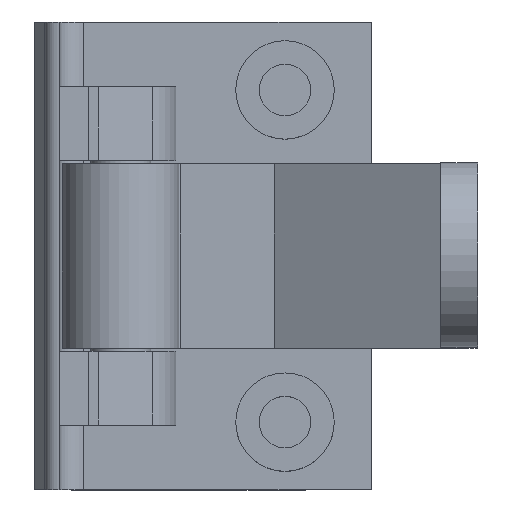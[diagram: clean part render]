
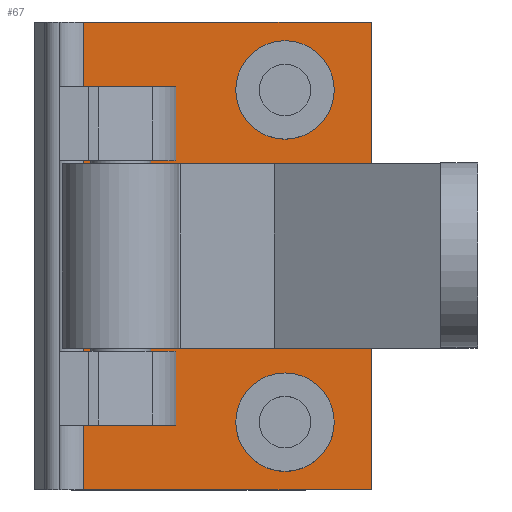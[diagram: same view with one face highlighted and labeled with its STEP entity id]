
A CAD part, top view. The second image highlights one B-rep face of the part: STEP entity #67.
In plain terms, the highlighted planar face has unit normal (0, 0, 1).
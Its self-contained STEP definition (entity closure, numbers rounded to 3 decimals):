
#26=FACE_BOUND('',#618,.T.);
#27=FACE_BOUND('',#619,.T.);
#67=ADVANCED_FACE('',(#339,#26,#27),#4818,.T.);
#339=FACE_OUTER_BOUND('',#617,.T.);
#617=EDGE_LOOP('',(#1036,#1037,#1038,#1039,#1040,#1041,#1042,#1043,#1044,
#1045,#1046,#1047));
#618=EDGE_LOOP('',(#1048,#1049));
#619=EDGE_LOOP('',(#1050,#1051));
#1036=ORIENTED_EDGE('',*,*,#2295,.T.);
#1037=ORIENTED_EDGE('',*,*,#2296,.F.);
#1038=ORIENTED_EDGE('',*,*,#2385,.F.);
#1039=ORIENTED_EDGE('',*,*,#2339,.F.);
#1040=ORIENTED_EDGE('',*,*,#2336,.F.);
#1041=ORIENTED_EDGE('',*,*,#2338,.T.);
#1042=ORIENTED_EDGE('',*,*,#2374,.F.);
#1043=ORIENTED_EDGE('',*,*,#2376,.T.);
#1044=ORIENTED_EDGE('',*,*,#2351,.T.);
#1045=ORIENTED_EDGE('',*,*,#2377,.F.);
#1046=ORIENTED_EDGE('',*,*,#2387,.F.);
#1047=ORIENTED_EDGE('',*,*,#2294,.T.);
#1048=ORIENTED_EDGE('',*,*,#2401,.F.);
#1049=ORIENTED_EDGE('',*,*,#2378,.F.);
#1050=ORIENTED_EDGE('',*,*,#2395,.F.);
#1051=ORIENTED_EDGE('',*,*,#2342,.F.);
#2294=EDGE_CURVE('',#4187,#4190,#3175,.T.);
#2295=EDGE_CURVE('',#4190,#4191,#3176,.T.);
#2296=EDGE_CURVE('',#4188,#4191,#3177,.T.);
#2336=EDGE_CURVE('',#4218,#4219,#3211,.T.);
#2338=EDGE_CURVE('',#4218,#4220,#3213,.T.);
#2339=EDGE_CURVE('',#4219,#4221,#3214,.T.);
#2342=EDGE_CURVE('',#4222,#4254,#3270,.T.);
#2351=EDGE_CURVE('',#4226,#4229,#3013,.T.);
#2374=EDGE_CURVE('',#4244,#4220,#3016,.T.);
#2376=EDGE_CURVE('',#4244,#4226,#3230,.T.);
#2377=EDGE_CURVE('',#4245,#4229,#3231,.T.);
#2378=EDGE_CURVE('',#4248,#4258,#3282,.T.);
#2385=EDGE_CURVE('',#4221,#4188,#3019,.T.);
#2387=EDGE_CURVE('',#4187,#4245,#3020,.T.);
#2395=EDGE_CURVE('',#4254,#4222,#3290,.T.);
#2401=EDGE_CURVE('',#4258,#4248,#3294,.T.);
#3013=(
BOUNDED_CURVE()
B_SPLINE_CURVE(1,(#7172,#7173),.UNSPECIFIED.,.F.,.F.)
B_SPLINE_CURVE_WITH_KNOTS((2,2),(0.,38.),.UNSPECIFIED.)
CURVE()
GEOMETRIC_REPRESENTATION_ITEM()
RATIONAL_B_SPLINE_CURVE((1.,1.))
REPRESENTATION_ITEM('')
);
#3016=(
BOUNDED_CURVE()
B_SPLINE_CURVE(1,(#7223,#7224),.UNSPECIFIED.,.F.,.F.)
B_SPLINE_CURVE_WITH_KNOTS((2,2),(0.,5.245),.UNSPECIFIED.)
CURVE()
GEOMETRIC_REPRESENTATION_ITEM()
RATIONAL_B_SPLINE_CURVE((1.,1.))
REPRESENTATION_ITEM('')
);
#3019=(
BOUNDED_CURVE()
B_SPLINE_CURVE(1,(#7250,#7251),.UNSPECIFIED.,.F.,.F.)
B_SPLINE_CURVE_WITH_KNOTS((2,2),(11.245,26.755),.UNSPECIFIED.)
CURVE()
GEOMETRIC_REPRESENTATION_ITEM()
RATIONAL_B_SPLINE_CURVE((1.,1.))
REPRESENTATION_ITEM('')
);
#3020=(
BOUNDED_CURVE()
B_SPLINE_CURVE(1,(#7254,#7255),.UNSPECIFIED.,.F.,.F.)
B_SPLINE_CURVE_WITH_KNOTS((2,2),(32.755,38.),.UNSPECIFIED.)
CURVE()
GEOMETRIC_REPRESENTATION_ITEM()
RATIONAL_B_SPLINE_CURVE((1.,1.))
REPRESENTATION_ITEM('')
);
#3175=B_SPLINE_CURVE_WITH_KNOTS('',1,(#7046,#7047),.UNSPECIFIED.,.F.,.F.,
(2,2),(-59.452,-51.952),.UNSPECIFIED.);
#3176=B_SPLINE_CURVE_WITH_KNOTS('',1,(#7048,#7049),.UNSPECIFIED.,.F.,.F.,
(2,2),(0.,6.),.UNSPECIFIED.);
#3177=B_SPLINE_CURVE_WITH_KNOTS('',1,(#7050,#7051),.UNSPECIFIED.,.F.,.F.,
(2,2),(-59.452,-51.952),.UNSPECIFIED.);
#3211=B_SPLINE_CURVE_WITH_KNOTS('',1,(#7134,#7135),.UNSPECIFIED.,.F.,.F.,
(2,2),(0.,6.),.UNSPECIFIED.);
#3213=B_SPLINE_CURVE_WITH_KNOTS('',1,(#7138,#7139),.UNSPECIFIED.,.F.,.F.,
(2,2),(-21.859,-14.359),.UNSPECIFIED.);
#3214=B_SPLINE_CURVE_WITH_KNOTS('',1,(#7140,#7141),.UNSPECIFIED.,.F.,.F.,
(2,2),(-21.859,-14.359),.UNSPECIFIED.);
#3230=B_SPLINE_CURVE_WITH_KNOTS('',1,(#7228,#7229),.UNSPECIFIED.,.F.,.F.,
(2,2),(54.31,77.669),.UNSPECIFIED.);
#3231=B_SPLINE_CURVE_WITH_KNOTS('',1,(#7230,#7231),.UNSPECIFIED.,.F.,.F.,
(2,2),(54.31,77.669),.UNSPECIFIED.);
#3270=TRIMMED_CURVE($,#3732,(#7149),(#7150),.T.,.CARTESIAN.);
#3282=TRIMMED_CURVE($,#3744,(#7233),(#7234),.T.,.CARTESIAN.);
#3290=TRIMMED_CURVE($,#3752,(#7275),(#7276),.T.,.CARTESIAN.);
#3294=TRIMMED_CURVE($,#3756,(#7291),(#7292),.T.,.CARTESIAN.);
#3732=CIRCLE('',#5044,4.);
#3744=CIRCLE('',#5056,4.);
#3752=CIRCLE('',#5064,4.);
#3756=CIRCLE('',#5068,4.);
#4187=VERTEX_POINT('',#6961);
#4188=VERTEX_POINT('',#6962);
#4190=VERTEX_POINT('',#6964);
#4191=VERTEX_POINT('',#6965);
#4218=VERTEX_POINT('',#6992);
#4219=VERTEX_POINT('',#6993);
#4220=VERTEX_POINT('',#6994);
#4221=VERTEX_POINT('',#6995);
#4222=VERTEX_POINT('',#6996);
#4226=VERTEX_POINT('',#7000);
#4229=VERTEX_POINT('',#7003);
#4244=VERTEX_POINT('',#7018);
#4245=VERTEX_POINT('',#7019);
#4248=VERTEX_POINT('',#7022);
#4254=VERTEX_POINT('',#7028);
#4258=VERTEX_POINT('',#7032);
#4818=PLANE('',#5015);
#5015=AXIS2_PLACEMENT_3D('',#6939,#5746,$);
#5044=AXIS2_PLACEMENT_3D($,#7148,#5783,#5784);
#5056=AXIS2_PLACEMENT_3D($,#7232,#5807,#5808);
#5064=AXIS2_PLACEMENT_3D($,#7274,#5823,#5824);
#5068=AXIS2_PLACEMENT_3D($,#7290,#5831,#5832);
#5746=DIRECTION('',(0.,0.,1.));
#5783=DIRECTION('',(0.,0.,1.));
#5784=DIRECTION('',(1.,0.,0.));
#5807=DIRECTION('',(0.,0.,1.));
#5808=DIRECTION('',(1.,0.,0.));
#5823=DIRECTION('',(0.,0.,1.));
#5824=DIRECTION('',(-1.,0.,0.));
#5831=DIRECTION('',(0.,0.,1.));
#5832=DIRECTION('',(-1.,0.,0.));
#6939=CARTESIAN_POINT('',(-479.391,-11.245,-81.645));
#6961=CARTESIAN_POINT('',(-479.391,21.51,-81.645));
#6962=CARTESIAN_POINT('',(-479.391,15.51,-81.645));
#6964=CARTESIAN_POINT('',(-471.891,21.51,-81.645));
#6965=CARTESIAN_POINT('',(-471.891,15.51,-81.645));
#6992=CARTESIAN_POINT('',(-471.891,-6.,-81.645));
#6993=CARTESIAN_POINT('',(-471.891,0.,-81.645));
#6994=CARTESIAN_POINT('',(-479.391,-6.,-81.645));
#6995=CARTESIAN_POINT('',(-479.391,0.,-81.645));
#6996=CARTESIAN_POINT('',(-459.032,21.255,-81.645));
#7000=CARTESIAN_POINT('',(-456.032,-11.245,-81.645));
#7003=CARTESIAN_POINT('',(-456.032,26.755,-81.645));
#7018=CARTESIAN_POINT('',(-479.391,-11.245,-81.645));
#7019=CARTESIAN_POINT('',(-479.391,26.755,-81.645));
#7022=CARTESIAN_POINT('',(-459.032,-5.745,-81.645));
#7028=CARTESIAN_POINT('',(-467.032,21.255,-81.645));
#7032=CARTESIAN_POINT('',(-467.032,-5.745,-81.645));
#7046=CARTESIAN_POINT('',(-479.391,21.51,-81.645));
#7047=CARTESIAN_POINT('',(-471.891,21.51,-81.645));
#7048=CARTESIAN_POINT('',(-471.891,21.51,-81.645));
#7049=CARTESIAN_POINT('',(-471.891,15.51,-81.645));
#7050=CARTESIAN_POINT('',(-479.391,15.51,-81.645));
#7051=CARTESIAN_POINT('',(-471.891,15.51,-81.645));
#7134=CARTESIAN_POINT('',(-471.891,-6.,-81.645));
#7135=CARTESIAN_POINT('',(-471.891,0.,-81.645));
#7138=CARTESIAN_POINT('',(-471.891,-6.,-81.645));
#7139=CARTESIAN_POINT('',(-479.391,-6.,-81.645));
#7140=CARTESIAN_POINT('',(-471.891,0.,-81.645));
#7141=CARTESIAN_POINT('',(-479.391,0.,-81.645));
#7148=CARTESIAN_POINT('',(-463.032,21.255,-81.645));
#7149=CARTESIAN_POINT('',(-459.032,21.255,-81.645));
#7150=CARTESIAN_POINT('',(-467.032,21.255,-81.645));
#7172=CARTESIAN_POINT('',(-456.032,-11.245,-81.645));
#7173=CARTESIAN_POINT('',(-456.032,26.755,-81.645));
#7223=CARTESIAN_POINT('',(-479.391,-11.245,-81.645));
#7224=CARTESIAN_POINT('',(-479.391,-6.,-81.645));
#7228=CARTESIAN_POINT('',(-479.391,-11.245,-81.645));
#7229=CARTESIAN_POINT('',(-456.032,-11.245,-81.645));
#7230=CARTESIAN_POINT('',(-479.391,26.755,-81.645));
#7231=CARTESIAN_POINT('',(-456.032,26.755,-81.645));
#7232=CARTESIAN_POINT('',(-463.032,-5.745,-81.645));
#7233=CARTESIAN_POINT('',(-459.032,-5.745,-81.645));
#7234=CARTESIAN_POINT('',(-467.032,-5.745,-81.645));
#7250=CARTESIAN_POINT('',(-479.391,0.,-81.645));
#7251=CARTESIAN_POINT('',(-479.391,15.51,-81.645));
#7254=CARTESIAN_POINT('',(-479.391,21.51,-81.645));
#7255=CARTESIAN_POINT('',(-479.391,26.755,-81.645));
#7274=CARTESIAN_POINT('',(-463.032,21.255,-81.645));
#7275=CARTESIAN_POINT('',(-467.032,21.255,-81.645));
#7276=CARTESIAN_POINT('',(-459.032,21.255,-81.645));
#7290=CARTESIAN_POINT('',(-463.032,-5.745,-81.645));
#7291=CARTESIAN_POINT('',(-467.032,-5.745,-81.645));
#7292=CARTESIAN_POINT('',(-459.032,-5.745,-81.645));
